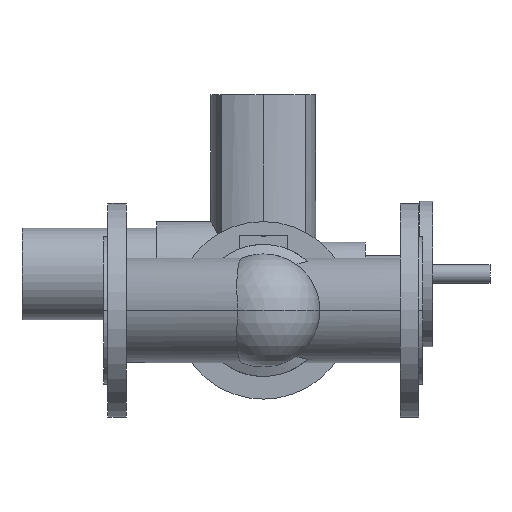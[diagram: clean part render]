
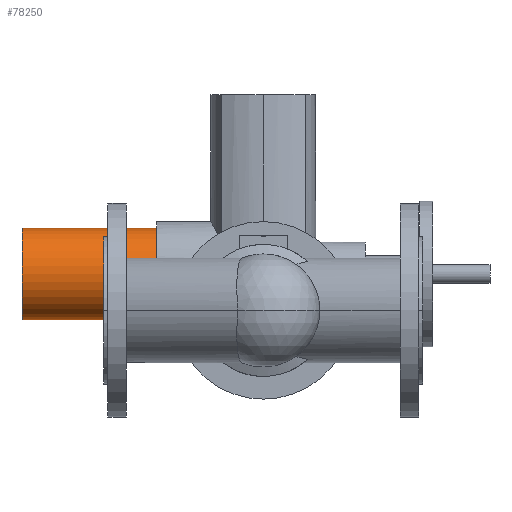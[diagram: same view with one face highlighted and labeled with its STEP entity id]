
A CAD part, front view. The second image highlights one B-rep face of the part: STEP entity #78250.
In plain terms, the highlighted cylindrical face has radius 50.5 mm (diameter 101 mm), a partial arc.
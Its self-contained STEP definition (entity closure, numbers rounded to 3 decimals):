
#62460=CARTESIAN_POINT('',(-16.,470.,40.));
#62470=DIRECTION('',(1.,0.,0.));
#62480=DIRECTION('',(0.,0.,-1.));
#62490=AXIS2_PLACEMENT_3D('',#62460,#62470,#62480);
#62500=CYLINDRICAL_SURFACE('',#62490,50.5);
#62510=CARTESIAN_POINT('',(-16.,470.,-10.5));
#62520=DIRECTION('',(1.,0.,0.));
#62530=VECTOR('',#62520,1.);
#62540=LINE('',#62510,#62530);
#62550=CARTESIAN_POINT('',(-90.,470.,-10.5));
#62560=VERTEX_POINT('',#62550);
#62570=CARTESIAN_POINT('',(58.,470.,-10.5));
#62580=VERTEX_POINT('',#62570);
#62590=EDGE_CURVE('',#62560,#62580,#62540,.T.);
#62610=CARTESIAN_POINT('',(58.,470.,40.));
#62620=DIRECTION('',(-1.,0.,0.));
#62630=DIRECTION('',(0.,0.,-1.));
#62640=AXIS2_PLACEMENT_3D('',#62610,#62620,#62630);
#62650=CIRCLE('',#62640,50.5);
#62660=CARTESIAN_POINT('',(58.,470.,90.5));
#62670=VERTEX_POINT('',#62660);
#62700=CARTESIAN_POINT('',(-16.,470.,90.5));
#62710=DIRECTION('',(1.,0.,0.));
#62720=VECTOR('',#62710,1.);
#62730=LINE('',#62700,#62720);
#62740=CARTESIAN_POINT('',(-90.,470.,90.5));
#62750=VERTEX_POINT('',#62740);
#62760=EDGE_CURVE('',#62750,#62670,#62730,.T.);
#62780=CARTESIAN_POINT('',(-90.,470.,40.));
#62790=DIRECTION('',(-1.,0.,0.));
#62800=DIRECTION('',(0.,0.,-1.));
#62810=AXIS2_PLACEMENT_3D('',#62780,#62790,#62800);
#62820=CIRCLE('',#62810,50.5);
#73190=EDGE_CURVE('',#62560,#62750,#62820,.T.);
#76150=EDGE_CURVE('',#62580,#62670,#62650,.T.);
#78190=ORIENTED_EDGE('',*,*,#62590,.T.);
#78200=ORIENTED_EDGE('',*,*,#73190,.F.);
#78210=ORIENTED_EDGE('',*,*,#62760,.F.);
#78220=ORIENTED_EDGE('',*,*,#76150,.T.);
#78230=EDGE_LOOP('',(#78220,#78210,#78200,#78190));
#78240=FACE_OUTER_BOUND('',#78230,.T.);
#78250=ADVANCED_FACE('',(#78240),#62500,.T.);
